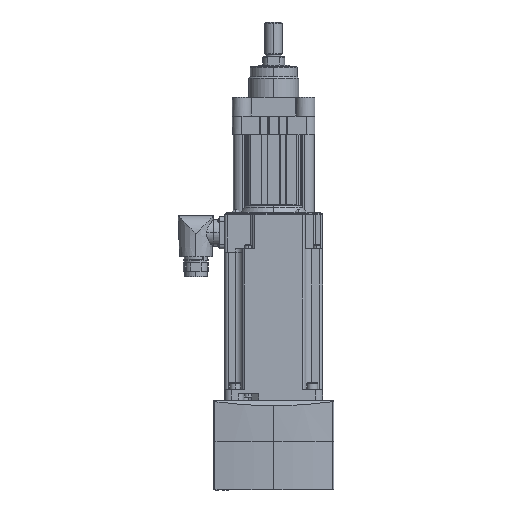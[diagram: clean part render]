
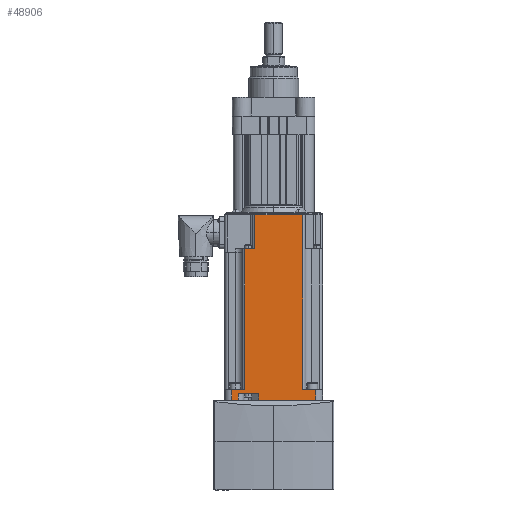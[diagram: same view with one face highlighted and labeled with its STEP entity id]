
A CAD part, left-side view. The second image highlights one B-rep face of the part: STEP entity #48906.
In plain terms, the highlighted planar face has unit normal (-1, 0, 0) as drawn and (0, 0, 1) by its records, which use the part's own axes.
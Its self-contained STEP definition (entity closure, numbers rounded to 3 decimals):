
#547 = VERTEX_POINT ( 'NONE', #6508 ) ;
#1408 = VECTOR ( 'NONE', #20934, 1000. ) ;
#1475 = DIRECTION ( 'NONE',  ( 0., -1., 0. ) ) ;
#1593 = ORIENTED_EDGE ( 'NONE', *, *, #51911, .T. ) ;
#2066 = VECTOR ( 'NONE', #46429, 1000. ) ;
#2201 = VECTOR ( 'NONE', #49522, 1000. ) ;
#2965 = VERTEX_POINT ( 'NONE', #7622 ) ;
#3245 = CARTESIAN_POINT ( 'NONE',  ( -135.382, 28.448, 44.704 ) ) ;
#3591 = LINE ( 'NONE', #41737, #2066 ) ;
#4193 = ORIENTED_EDGE ( 'NONE', *, *, #54331, .T. ) ;
#5402 = LINE ( 'NONE', #16192, #56960 ) ;
#5611 = EDGE_CURVE ( 'NONE', #60195, #8326, #59324, .T. ) ;
#5790 = CARTESIAN_POINT ( 'NONE',  ( -135.382, -17.272, 44.704 ) ) ;
#6508 = CARTESIAN_POINT ( 'NONE',  ( -169.926, 26.416, 44.704 ) ) ;
#7622 = CARTESIAN_POINT ( 'NONE',  ( -169.926, -17.272, 44.704 ) ) ;
#8326 = VERTEX_POINT ( 'NONE', #32063 ) ;
#8367 = VERTEX_POINT ( 'NONE', #53566 ) ;
#11274 = VECTOR ( 'NONE', #44458, 1000. ) ;
#12618 = VECTOR ( 'NONE', #40303, 1000. ) ;
#12622 = ORIENTED_EDGE ( 'NONE', *, *, #25444, .T. ) ;
#14016 = EDGE_CURVE ( 'NONE', #49444, #8326, #20087, .T. ) ;
#14815 = CARTESIAN_POINT ( 'NONE',  ( -135.382, -32.347, 44.704 ) ) ;
#15163 = DIRECTION ( 'NONE',  ( 0., -1., 0. ) ) ;
#16192 = CARTESIAN_POINT ( 'NONE',  ( 0., -44.704, 44.704 ) ) ;
#16583 = CARTESIAN_POINT ( 'NONE',  ( 0., 38.354, 44.704 ) ) ;
#16803 = LINE ( 'NONE', #43287, #18333 ) ;
#17314 = CARTESIAN_POINT ( 'NONE',  ( -6.35, -13.79, 44.704 ) ) ;
#18333 = VECTOR ( 'NONE', #24821, 1000. ) ;
#18615 = CARTESIAN_POINT ( 'NONE',  ( -169.926, -17.272, 44.704 ) ) ;
#18941 = DIRECTION ( 'NONE',  ( 0., -1., 0. ) ) ;
#20087 = LINE ( 'NONE', #17314, #45828 ) ;
#20479 = ORIENTED_EDGE ( 'NONE', *, *, #26562, .T. ) ;
#20785 = EDGE_CURVE ( 'NONE', #547, #2965, #60014, .T. ) ;
#20934 = DIRECTION ( 'NONE',  ( 1., 0., 0. ) ) ;
#21019 = LINE ( 'NONE', #14815, #2201 ) ;
#22446 = ORIENTED_EDGE ( 'NONE', *, *, #5611, .F. ) ;
#22465 = VECTOR ( 'NONE', #58667, 1000. ) ;
#22760 = CARTESIAN_POINT ( 'NONE',  ( 0., -32.347, 44.704 ) ) ;
#24156 = LINE ( 'NONE', #5790, #11274 ) ;
#24662 = CARTESIAN_POINT ( 'NONE',  ( -6.35, -13.79, 44.704 ) ) ;
#24821 = DIRECTION ( 'NONE',  ( -1., 0., 0. ) ) ;
#25444 = EDGE_CURVE ( 'NONE', #44342, #547, #16803, .T. ) ;
#25516 = LINE ( 'NONE', #44456, #1408 ) ;
#26160 = AXIS2_PLACEMENT_3D ( 'NONE', #3245, #61505, #32350 ) ;
#26489 = DIRECTION ( 'NONE',  ( -1., 0., 0. ) ) ;
#26562 = EDGE_CURVE ( 'NONE', #44901, #41509, #60072, .T. ) ;
#27131 = ORIENTED_EDGE ( 'NONE', *, *, #49626, .F. ) ;
#27468 = DIRECTION ( 'NONE',  ( 0., -1., 0. ) ) ;
#29039 = LINE ( 'NONE', #24662, #38903 ) ;
#30102 = CARTESIAN_POINT ( 'NONE',  ( 0., -44.704, 44.704 ) ) ;
#31761 = EDGE_CURVE ( 'NONE', #60195, #45116, #42211, .T. ) ;
#32063 = CARTESIAN_POINT ( 'NONE',  ( 0., -13.79, 44.704 ) ) ;
#32350 = DIRECTION ( 'NONE',  ( 0., 1., 0. ) ) ;
#33024 = EDGE_CURVE ( 'NONE', #57822, #8367, #25516, .T. ) ;
#33809 = LINE ( 'NONE', #34390, #22465 ) ;
#34390 = CARTESIAN_POINT ( 'NONE',  ( -138.557, -44.704, 44.704 ) ) ;
#37207 = CARTESIAN_POINT ( 'NONE',  ( -138.557, -26.416, 44.704 ) ) ;
#37535 = EDGE_CURVE ( 'NONE', #49444, #52180, #29039, .T. ) ;
#37719 = CARTESIAN_POINT ( 'NONE',  ( -9.906, -38.354, 44.704 ) ) ;
#37967 = CARTESIAN_POINT ( 'NONE',  ( -135.382, -26.416, 44.704 ) ) ;
#38903 = VECTOR ( 'NONE', #15163, 1000. ) ;
#39139 = ORIENTED_EDGE ( 'NONE', *, *, #45136, .F. ) ;
#39330 = CARTESIAN_POINT ( 'NONE',  ( -6.35, -32.347, 44.704 ) ) ;
#40303 = DIRECTION ( 'NONE',  ( 0., -1., 0. ) ) ;
#40862 = EDGE_LOOP ( 'NONE', ( #62484, #44206, #27131, #51566, #44905, #45836, #22446, #62802, #4193, #12622, #50817, #1593, #39139, #20479 ) ) ;
#41046 = DIRECTION ( 'NONE',  ( 1., 0., 0. ) ) ;
#41501 = EDGE_CURVE ( 'NONE', #53824, #52180, #21019, .T. ) ;
#41509 = VERTEX_POINT ( 'NONE', #46728 ) ;
#41737 = CARTESIAN_POINT ( 'NONE',  ( -9.906, -44.704, 44.704 ) ) ;
#42211 = LINE ( 'NONE', #60533, #55161 ) ;
#43287 = CARTESIAN_POINT ( 'NONE',  ( -135.382, 26.416, 44.704 ) ) ;
#43581 = EDGE_CURVE ( 'NONE', #41509, #57822, #62720, .T. ) ;
#44206 = ORIENTED_EDGE ( 'NONE', *, *, #33024, .T. ) ;
#44342 = VERTEX_POINT ( 'NONE', #57496 ) ;
#44456 = CARTESIAN_POINT ( 'NONE',  ( -135.382, -38.354, 44.704 ) ) ;
#44458 = DIRECTION ( 'NONE',  ( 1., 0., 0. ) ) ;
#44901 = VERTEX_POINT ( 'NONE', #37207 ) ;
#44905 = ORIENTED_EDGE ( 'NONE', *, *, #37535, .F. ) ;
#45116 = VERTEX_POINT ( 'NONE', #58461 ) ;
#45136 = EDGE_CURVE ( 'NONE', #44901, #56113, #33809, .T. ) ;
#45828 = VECTOR ( 'NONE', #51246, 1000. ) ;
#45836 = ORIENTED_EDGE ( 'NONE', *, *, #14016, .T. ) ;
#46334 = VECTOR ( 'NONE', #27468, 1000. ) ;
#46429 = DIRECTION ( 'NONE',  ( 0., -1., 0. ) ) ;
#46728 = CARTESIAN_POINT ( 'NONE',  ( -9.906, -26.416, 44.704 ) ) ;
#47049 = VECTOR ( 'NONE', #18941, 1000. ) ;
#47100 = VECTOR ( 'NONE', #41046, 1000. ) ;
#48906 = ADVANCED_FACE ( 'NONE', ( #52504 ), #56580, .F. ) ;
#49444 = VERTEX_POINT ( 'NONE', #53108 ) ;
#49522 = DIRECTION ( 'NONE',  ( -1., 0., 0. ) ) ;
#49626 = EDGE_CURVE ( 'NONE', #53824, #8367, #5402, .T. ) ;
#49904 = CARTESIAN_POINT ( 'NONE',  ( -9.906, -44.704, 44.704 ) ) ;
#50817 = ORIENTED_EDGE ( 'NONE', *, *, #20785, .T. ) ;
#51246 = DIRECTION ( 'NONE',  ( 1., 0., 0. ) ) ;
#51566 = ORIENTED_EDGE ( 'NONE', *, *, #41501, .T. ) ;
#51911 = EDGE_CURVE ( 'NONE', #2965, #56113, #24156, .T. ) ;
#52180 = VERTEX_POINT ( 'NONE', #39330 ) ;
#52504 = FACE_OUTER_BOUND ( 'NONE', #40862, .T. ) ;
#53108 = CARTESIAN_POINT ( 'NONE',  ( -6.35, -13.79, 44.704 ) ) ;
#53566 = CARTESIAN_POINT ( 'NONE',  ( 0., -38.354, 44.704 ) ) ;
#53824 = VERTEX_POINT ( 'NONE', #22760 ) ;
#54331 = EDGE_CURVE ( 'NONE', #45116, #44342, #3591, .T. ) ;
#55161 = VECTOR ( 'NONE', #26489, 1000. ) ;
#56113 = VERTEX_POINT ( 'NONE', #56220 ) ;
#56220 = CARTESIAN_POINT ( 'NONE',  ( -138.557, -17.272, 44.704 ) ) ;
#56580 = PLANE ( 'NONE',  #26160 ) ;
#56960 = VECTOR ( 'NONE', #1475, 1000. ) ;
#57496 = CARTESIAN_POINT ( 'NONE',  ( -9.906, 26.416, 44.704 ) ) ;
#57822 = VERTEX_POINT ( 'NONE', #37719 ) ;
#58461 = CARTESIAN_POINT ( 'NONE',  ( -9.906, 38.354, 44.704 ) ) ;
#58667 = DIRECTION ( 'NONE',  ( 0., 1., 0. ) ) ;
#59324 = LINE ( 'NONE', #30102, #46334 ) ;
#60014 = LINE ( 'NONE', #18615, #47049 ) ;
#60072 = LINE ( 'NONE', #37967, #47100 ) ;
#60195 = VERTEX_POINT ( 'NONE', #16583 ) ;
#60533 = CARTESIAN_POINT ( 'NONE',  ( -135.382, 38.354, 44.704 ) ) ;
#61505 = DIRECTION ( 'NONE',  ( 0., 0., -1. ) ) ;
#62484 = ORIENTED_EDGE ( 'NONE', *, *, #43581, .T. ) ;
#62720 = LINE ( 'NONE', #49904, #12618 ) ;
#62802 = ORIENTED_EDGE ( 'NONE', *, *, #31761, .T. ) ;
